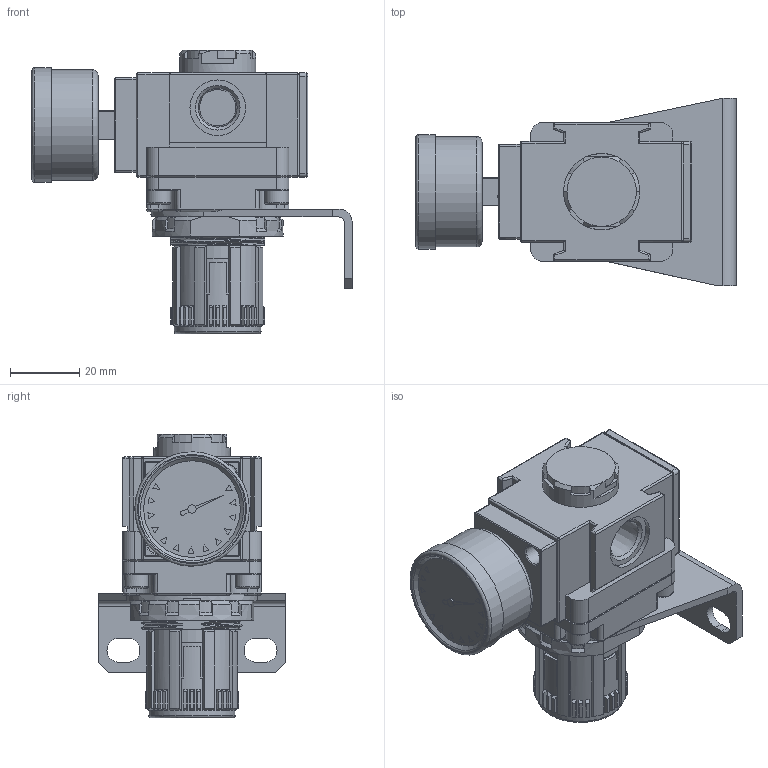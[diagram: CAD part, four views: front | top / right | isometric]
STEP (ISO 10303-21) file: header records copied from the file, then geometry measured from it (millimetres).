
FILE_DESCRIPTION(('STEP AP203'),'1');
FILE_NAME('BVR200-02-VG10A.stp','2025-09-11T05:07:17',(' '),(' '),'Spatial InterOp 3D',' ',' ');
FILE_SCHEMA(('CONFIG_CONTROL_DESIGN'));
Length unit declared in the file: millimetre
Products named in the file (1): 1
Bounding box: 92.31 x 54 x 81.8 mm (x, y, z)
Volume: 112901.9 mm3; surface area: 27246.5 mm2
Topology: 1 solids, 1 shells, 708 faces, 1799 edges, 1138 vertices
Faces by surface type: plane 376, cylinder 183, cone 95, torus 24, bspline 22, sphere 8
Full cylindrical faces by diameter (mm): 2.386 x1, 3.4 x2, 5.6 x2, 7 x4, 10.5 x2, 16 x2, 20.6 x1, 22 x1, 25 x1, 31.807 x1, 33 x1
Entity records: 27141 total; most frequent: CARTESIAN_POINT 10546, ORIENTED_EDGE 3480, DIRECTION 3415, EDGE_CURVE 1740, AXIS2_PLACEMENT_3D 1230, VERTEX_POINT 1123, LINE 955, VECTOR 955
